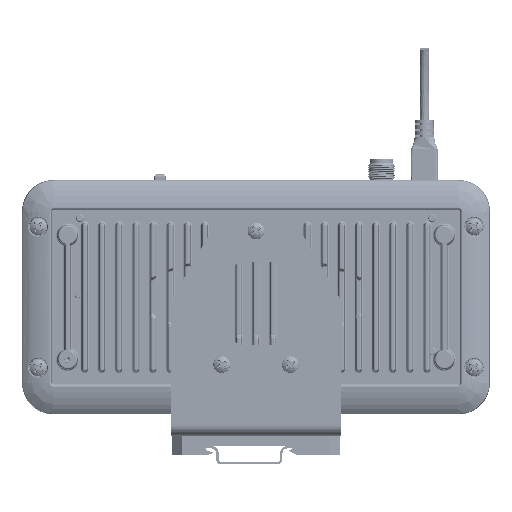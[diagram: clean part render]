
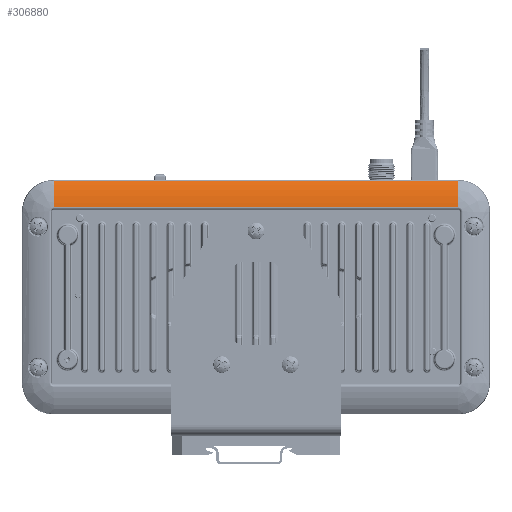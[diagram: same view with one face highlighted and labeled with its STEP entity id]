
A CAD part, left-side view. The second image highlights one B-rep face of the part: STEP entity #306880.
In plain terms, the highlighted free-form (B-spline) face has degree [3, 1] with [4, 2] control points.
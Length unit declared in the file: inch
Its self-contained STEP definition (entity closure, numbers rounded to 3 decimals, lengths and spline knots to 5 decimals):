
#11946 = LINE ( 'NONE', #98249, #146289 ) ;
#16570 = CARTESIAN_POINT ( 'NONE',  ( 3.25, 0.21274, 1.53705 ) ) ;
#25601 = ORIENTED_EDGE ( 'NONE', *, *, #127530, .T. ) ;
#38204 = CARTESIAN_POINT ( 'NONE',  ( -3.25, 0.20266, 1.44201 ) ) ;
#39250 = VERTEX_POINT ( 'NONE', #131508 ) ;
#42863 = CARTESIAN_POINT ( 'NONE',  ( 3.25, 0.20266, 1.44201 ) ) ;
#57281 = EDGE_LOOP ( 'NONE', ( #327849, #122855, #256097, #25601 ) ) ;
#63302 = DIRECTION ( 'NONE',  ( 1., 0., 0. ) ) ;
#65201 = B_SPLINE_CURVE_WITH_KNOTS ( 'NONE', 3,
 ( #65419, #222246, #274897, #117972 ),
 .UNSPECIFIED., .F., .F.,
 ( 4, 4 ),
 ( 0.08135, 0.83762 ),
 .UNSPECIFIED. ) ;
#65419 = CARTESIAN_POINT ( 'NONE',  ( 3.25, 0.35047, 1.87129 ) ) ;
#75143 = CARTESIAN_POINT ( 'NONE',  ( 3.25, 0.35047, 1.87129 ) ) ;
#81436 = VERTEX_POINT ( 'NONE', #313388 ) ;
#92809 = LINE ( 'NONE', #38204, #232062 ) ;
#98249 = CARTESIAN_POINT ( 'NONE',  ( 3.25, 0.35047, 1.87129 ) ) ;
#117253 = CARTESIAN_POINT ( 'NONE',  ( -3.25, 0.25012, 1.74452 ) ) ;
#117972 = CARTESIAN_POINT ( 'NONE',  ( 3.25, 0.20266, 1.44201 ) ) ;
#122855 = ORIENTED_EDGE ( 'NONE', *, *, #134891, .T. ) ;
#127530 = EDGE_CURVE ( 'NONE', #39250, #159088, #92809, .T. ) ;
#131508 = CARTESIAN_POINT ( 'NONE',  ( -3.25, 0.20266, 1.44201 ) ) ;
#134891 = EDGE_CURVE ( 'Edge36', #284472, #81436, #11946, .T. ) ;
#142438 = CARTESIAN_POINT ( 'NONE',  ( -3.25, 0.35047, 1.87129 ) ) ;
#146289 = VECTOR ( 'NONE', #306624, 39.37008 ) ;
#146818 = CARTESIAN_POINT ( 'NONE',  ( -3.25, 0.25012, 1.74452 ) ) ;
#159088 = VERTEX_POINT ( 'NONE', #304412 ) ;
#169921 = CARTESIAN_POINT ( 'NONE',  ( -3.25, 0.20266, 1.44201 ) ) ;
#173195 = CARTESIAN_POINT ( 'NONE',  ( -3.25, 0.21274, 1.53705 ) ) ;
#184608 = EDGE_CURVE ( 'NONE', #81436, #39250, #302636, .T. ) ;
#199581 = CARTESIAN_POINT ( 'NONE',  ( -3.25, 0.20266, 1.44201 ) ) ;
#222246 = CARTESIAN_POINT ( 'NONE',  ( 3.25, 0.25012, 1.74452 ) ) ;
#223725 = CARTESIAN_POINT ( 'NONE',  ( 3.25, 0.35047, 1.87129 ) ) ;
#232062 = VECTOR ( 'NONE', #63302, 39.37008 ) ;
#234651 = FACE_OUTER_BOUND ( 'NONE', #57281, .T. ) ;
#256097 = ORIENTED_EDGE ( 'NONE', *, *, #184608, .T. ) ;
#274897 = CARTESIAN_POINT ( 'NONE',  ( 3.25, 0.21274, 1.53705 ) ) ;
#284472 = VERTEX_POINT ( 'NONE', #75143 ) ;
#302636 = B_SPLINE_CURVE_WITH_KNOTS ( 'NONE', 3,
 ( #142438, #117253, #326839, #169921 ),
 .UNSPECIFIED., .F., .F.,
 ( 4, 4 ),
 ( 0.08135, 0.83762 ),
 .UNSPECIFIED. ) ;
#302742 = B_SPLINE_SURFACE_WITH_KNOTS ( 'NONE', 3, 1, ( 
 ( #303754, #223725 ),
 ( #146818, #330090 ),
 ( #173195, #16570 ),
 ( #199581, #42863 ) ),
 .UNSPECIFIED., .F., .F., .F.,
 ( 4, 4 ),
 ( 2, 2 ),
 ( 0.08135, 0.83762 ),
 ( 0., 1. ),
 .UNSPECIFIED. ) ;
#303754 = CARTESIAN_POINT ( 'NONE',  ( -3.25, 0.35047, 1.87129 ) ) ;
#304412 = CARTESIAN_POINT ( 'NONE',  ( 3.25, 0.20266, 1.44201 ) ) ;
#306624 = DIRECTION ( 'NONE',  ( -1., 0., 0. ) ) ;
#306880 = ADVANCED_FACE ( 'NONE', ( #234651 ), #302742, .T. ) ;
#313388 = CARTESIAN_POINT ( 'NONE',  ( -3.25, 0.35047, 1.87129 ) ) ;
#318364 = EDGE_CURVE ( 'NONE', #284472, #159088, #65201, .T. ) ;
#326839 = CARTESIAN_POINT ( 'NONE',  ( -3.25, 0.21274, 1.53705 ) ) ;
#327849 = ORIENTED_EDGE ( 'NONE', *, *, #318364, .F. ) ;
#330090 = CARTESIAN_POINT ( 'NONE',  ( 3.25, 0.25012, 1.74452 ) ) ;
